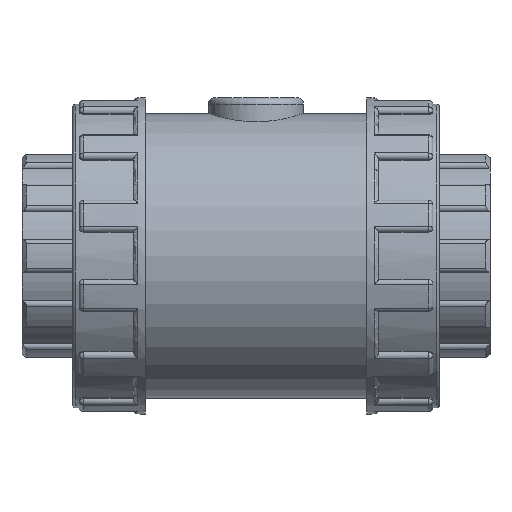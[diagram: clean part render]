
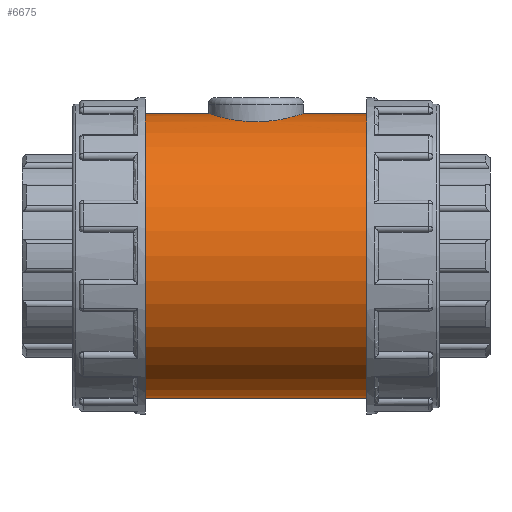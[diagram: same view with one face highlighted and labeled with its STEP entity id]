
A CAD part, top view. The second image highlights one B-rep face of the part: STEP entity #6675.
In plain terms, the highlighted cylindrical face has radius 43.2 mm (diameter 86.4 mm), a full revolution.
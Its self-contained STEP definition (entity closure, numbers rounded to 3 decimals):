
#185=FACE_BOUND('',#1099,.T.);
#186=FACE_BOUND('',#1100,.T.);
#670=FACE_OUTER_BOUND('',#1098,.T.);
#1098=EDGE_LOOP('',(#6073));
#1099=EDGE_LOOP('',(#6074));
#1100=EDGE_LOOP('',(#6075));
#1149=B_SPLINE_CURVE_WITH_KNOTS('',3,(#10735,#10736,#10737,#10738,#10739,
#10740,#10741,#10742,#10743,#10744,#10745,#10746,#10747,#10748,#10749,#10750,
#10751,#10752,#10753,#10754,#10755,#10756,#10757,#10758,#10759,#10760,#10761,
#10762,#10763,#10764,#10765,#10766,#10767,#10768,#10769,#10770,#10771,#10772,
#10773,#10774,#10775,#10776,#10777,#10778,#10779,#10780,#10781,#10782,#10783,
#10784),.UNSPECIFIED.,.T.,.F.,(4,2,2,2,2,2,2,2,2,2,2,2,2,2,2,2,2,2,2,2,
2,2,2,2,4),(0.,0.274,0.547,1.094,1.641,
1.915,2.188,2.461,2.735,3.282,
3.829,4.102,4.376,4.649,4.923,
5.47,6.017,6.29,6.564,6.837,
7.111,7.658,8.205,8.478,8.752),
 .UNSPECIFIED.);
#2472=CIRCLE('',#7578,43.2);
#2473=CIRCLE('',#7580,43.2);
#2638=VERTEX_POINT('',#10734);
#3083=VERTEX_POINT('',#13369);
#3084=VERTEX_POINT('',#13372);
#3349=EDGE_CURVE('',#2638,#2638,#1149,.T.);
#4082=EDGE_CURVE('',#3083,#3083,#2472,.T.);
#4083=EDGE_CURVE('',#3084,#3084,#2473,.T.);
#6073=ORIENTED_EDGE('',*,*,#4082,.T.);
#6074=ORIENTED_EDGE('',*,*,#3349,.T.);
#6075=ORIENTED_EDGE('',*,*,#4083,.F.);
#6267=CYLINDRICAL_SURFACE('',#7579,43.2);
#6675=ADVANCED_FACE('',(#670,#185,#186),#6267,.T.);
#7578=AXIS2_PLACEMENT_3D('',#13370,#9749,#9750);
#7579=AXIS2_PLACEMENT_3D('',#13371,#9751,#9752);
#7580=AXIS2_PLACEMENT_3D('',#13373,#9753,#9754);
#9749=DIRECTION('center_axis',(1.,0.,0.));
#9750=DIRECTION('ref_axis',(0.,0.,-1.));
#9751=DIRECTION('center_axis',(1.,0.,0.));
#9752=DIRECTION('ref_axis',(0.,1.,0.));
#9753=DIRECTION('center_axis',(1.,0.,0.));
#9754=DIRECTION('ref_axis',(0.,0.,-1.));
#10734=CARTESIAN_POINT('',(0.,40.729,-14.4));
#10735=CARTESIAN_POINT('Ctrl Pts',(0.,40.729,
-14.4));
#10736=CARTESIAN_POINT('Ctrl Pts',(0.912,40.729,-14.4));
#10737=CARTESIAN_POINT('Ctrl Pts',(1.852,40.761,-14.312));
#10738=CARTESIAN_POINT('Ctrl Pts',(3.719,40.888,-13.944));
#10739=CARTESIAN_POINT('Ctrl Pts',(4.644,40.984,-13.664));
#10740=CARTESIAN_POINT('Ctrl Pts',(7.302,41.341,-12.559));
#10741=CARTESIAN_POINT('Ctrl Pts',(8.911,41.675,-11.453));
#10742=CARTESIAN_POINT('Ctrl Pts',(11.453,42.291,-8.912));
#10743=CARTESIAN_POINT('Ctrl Pts',(12.559,42.616,-7.302));
#10744=CARTESIAN_POINT('Ctrl Pts',(13.664,42.959,-4.644));
#10745=CARTESIAN_POINT('Ctrl Pts',(13.944,43.05,-3.718));
#10746=CARTESIAN_POINT('Ctrl Pts',(14.312,43.17,-1.852));
#10747=CARTESIAN_POINT('Ctrl Pts',(14.4,43.2,-0.911));
#10748=CARTESIAN_POINT('Ctrl Pts',(14.4,43.2,0.911));
#10749=CARTESIAN_POINT('Ctrl Pts',(14.312,43.17,1.852));
#10750=CARTESIAN_POINT('Ctrl Pts',(13.944,43.05,3.718));
#10751=CARTESIAN_POINT('Ctrl Pts',(13.664,42.959,4.644));
#10752=CARTESIAN_POINT('Ctrl Pts',(12.559,42.616,7.302));
#10753=CARTESIAN_POINT('Ctrl Pts',(11.453,42.291,8.912));
#10754=CARTESIAN_POINT('Ctrl Pts',(8.911,41.675,11.453));
#10755=CARTESIAN_POINT('Ctrl Pts',(7.302,41.341,12.559));
#10756=CARTESIAN_POINT('Ctrl Pts',(4.644,40.984,13.664));
#10757=CARTESIAN_POINT('Ctrl Pts',(3.719,40.888,13.944));
#10758=CARTESIAN_POINT('Ctrl Pts',(1.852,40.761,14.312));
#10759=CARTESIAN_POINT('Ctrl Pts',(0.912,40.729,14.4));
#10760=CARTESIAN_POINT('Ctrl Pts',(-0.912,40.729,
14.4));
#10761=CARTESIAN_POINT('Ctrl Pts',(-1.852,40.761,14.312));
#10762=CARTESIAN_POINT('Ctrl Pts',(-3.719,40.888,13.944));
#10763=CARTESIAN_POINT('Ctrl Pts',(-4.644,40.984,13.664));
#10764=CARTESIAN_POINT('Ctrl Pts',(-7.302,41.341,12.559));
#10765=CARTESIAN_POINT('Ctrl Pts',(-8.911,41.675,11.453));
#10766=CARTESIAN_POINT('Ctrl Pts',(-11.453,42.291,8.912));
#10767=CARTESIAN_POINT('Ctrl Pts',(-12.559,42.616,7.302));
#10768=CARTESIAN_POINT('Ctrl Pts',(-13.664,42.959,4.644));
#10769=CARTESIAN_POINT('Ctrl Pts',(-13.944,43.05,3.718));
#10770=CARTESIAN_POINT('Ctrl Pts',(-14.312,43.17,1.852));
#10771=CARTESIAN_POINT('Ctrl Pts',(-14.4,43.2,0.911));
#10772=CARTESIAN_POINT('Ctrl Pts',(-14.4,43.2,-0.911));
#10773=CARTESIAN_POINT('Ctrl Pts',(-14.312,43.17,-1.852));
#10774=CARTESIAN_POINT('Ctrl Pts',(-13.944,43.05,-3.718));
#10775=CARTESIAN_POINT('Ctrl Pts',(-13.664,42.959,-4.644));
#10776=CARTESIAN_POINT('Ctrl Pts',(-12.559,42.616,-7.302));
#10777=CARTESIAN_POINT('Ctrl Pts',(-11.453,42.291,-8.912));
#10778=CARTESIAN_POINT('Ctrl Pts',(-8.911,41.675,-11.453));
#10779=CARTESIAN_POINT('Ctrl Pts',(-7.302,41.341,-12.559));
#10780=CARTESIAN_POINT('Ctrl Pts',(-4.644,40.984,-13.664));
#10781=CARTESIAN_POINT('Ctrl Pts',(-3.719,40.888,-13.944));
#10782=CARTESIAN_POINT('Ctrl Pts',(-1.852,40.761,-14.312));
#10783=CARTESIAN_POINT('Ctrl Pts',(-0.912,40.729,
-14.4));
#10784=CARTESIAN_POINT('Ctrl Pts',(0.,40.729,-14.4));
#13369=CARTESIAN_POINT('',(-33.6,43.2,0.));
#13370=CARTESIAN_POINT('Origin',(-33.6,0.,0.));
#13371=CARTESIAN_POINT('Origin',(0.,0.,0.));
#13372=CARTESIAN_POINT('',(33.6,43.2,0.));
#13373=CARTESIAN_POINT('Origin',(33.6,0.,0.));
